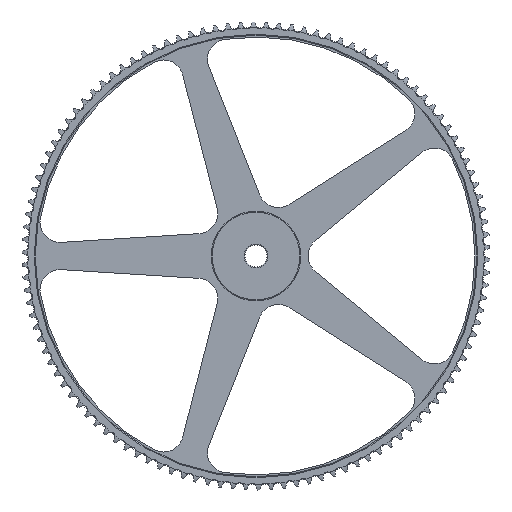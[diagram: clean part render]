
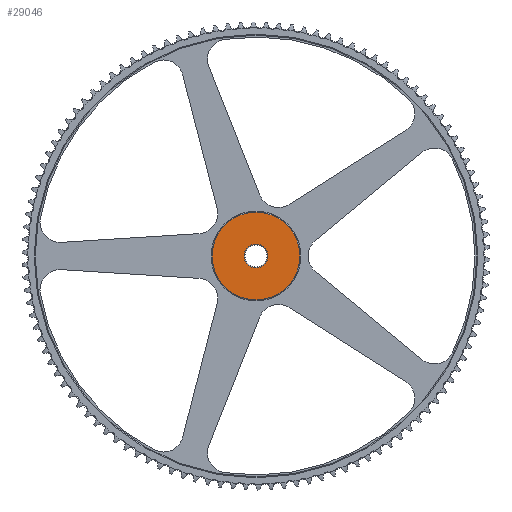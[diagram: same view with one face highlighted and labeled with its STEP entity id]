
A CAD part, left-side view. The second image highlights one B-rep face of the part: STEP entity #29046.
In plain terms, the highlighted planar face has unit normal (-1, 0, 0).
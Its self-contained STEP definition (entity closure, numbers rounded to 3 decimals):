
#42=FACE_BOUND('',#5381,.T.);
#2324=CIRCLE('',#32402,87.5);
#2325=CIRCLE('',#32404,23.5);
#2476=PLANE('',#32403);
#3918=FACE_OUTER_BOUND('',#5380,.T.);
#5380=EDGE_LOOP('',(#25925));
#5381=EDGE_LOOP('',(#25926));
#12351=VERTEX_POINT('',#57954);
#12352=VERTEX_POINT('',#57957);
#17120=EDGE_CURVE('',#12351,#12351,#2324,.T.);
#17121=EDGE_CURVE('',#12352,#12352,#2325,.T.);
#25925=ORIENTED_EDGE('',*,*,#17120,.T.);
#25926=ORIENTED_EDGE('',*,*,#17121,.F.);
#29046=ADVANCED_FACE('',(#3918,#42),#2476,.T.);
#32402=AXIS2_PLACEMENT_3D('',#57955,#40100,#40101);
#32403=AXIS2_PLACEMENT_3D('',#57956,#40102,#40103);
#32404=AXIS2_PLACEMENT_3D('',#57958,#40104,#40105);
#40100=DIRECTION('center_axis',(-1.,0.,0.));
#40101=DIRECTION('ref_axis',(0.,0.,1.));
#40102=DIRECTION('center_axis',(-1.,0.,0.));
#40103=DIRECTION('ref_axis',(0.,0.,1.));
#40104=DIRECTION('center_axis',(-1.,0.,0.));
#40105=DIRECTION('ref_axis',(0.,0.,1.));
#57954=CARTESIAN_POINT('',(3.729,370.8,0.));
#57955=CARTESIAN_POINT('Origin',(3.729,458.3,0.));
#57956=CARTESIAN_POINT('Origin',(3.729,434.8,0.));
#57957=CARTESIAN_POINT('',(3.729,434.8,0.));
#57958=CARTESIAN_POINT('Origin',(3.729,458.3,0.));
